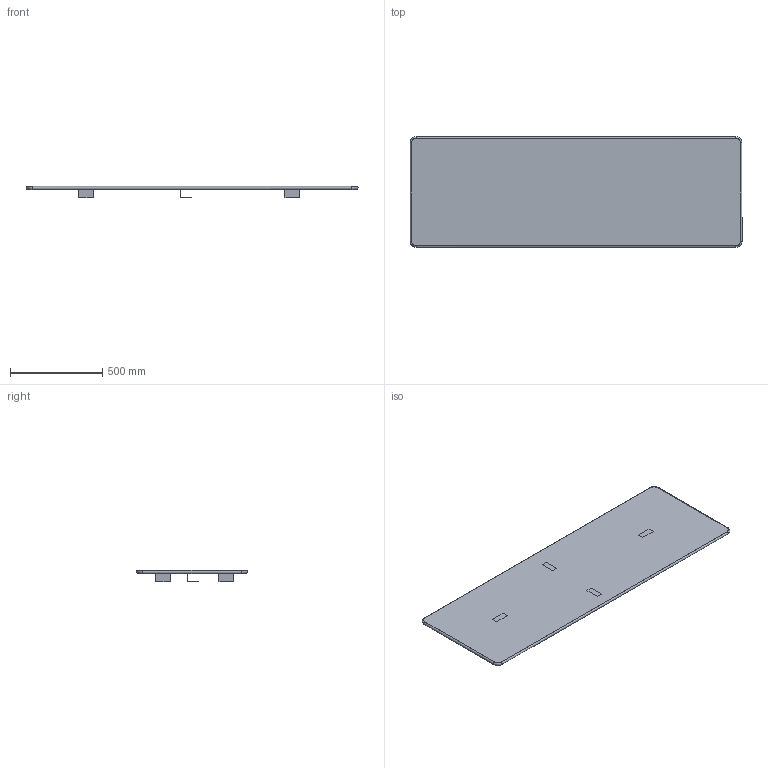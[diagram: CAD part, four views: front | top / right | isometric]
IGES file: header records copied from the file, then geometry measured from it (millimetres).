
Start section: SolidWorks IGES file using NURBS representation for surfaces
Global section: file name: G:\VICCARBE\PRODUCTOS\26-PANELES LAYER\04-MODELADOS (PLANOS)\especiales para 3D\VICCARBE_LayerPanel_1800x600d25.IGS; native system: SolidWorks 2009; preprocessor: SolidWorks 2009; author: RUBEN; date: 110906.115619; units: millimetre
Bounding box: 1801 x 601 x 60.5 mm (x, y, z)
Surface area: 2552355.8 mm2 (no closed solid volume)
Topology: 0 solids, 0 shells, 63 faces, 424 edges, 424 vertices
Faces by surface type: bspline 63
